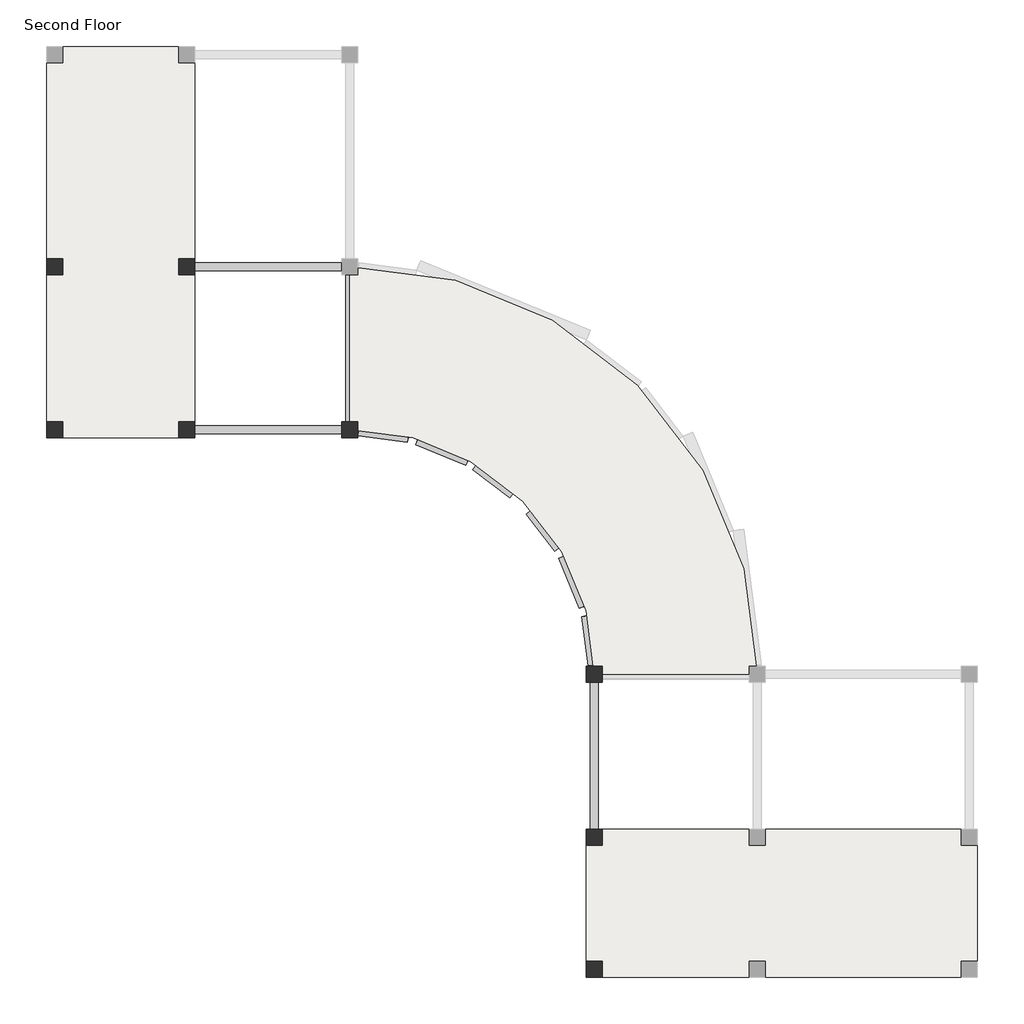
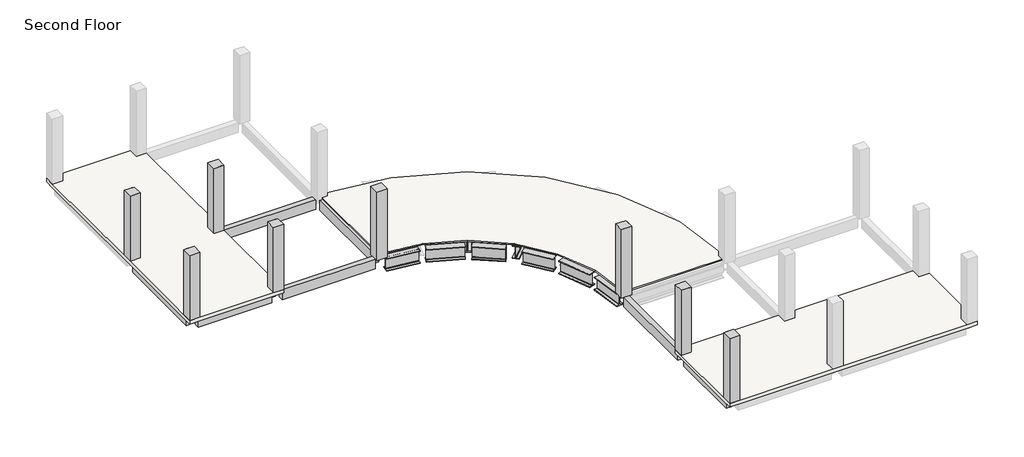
# One storey, part 1 of 2: 18 beams, 16 columns, 3 slabs.
"""IFC4 building model written with IfcOpenShell, lengths in millimetres."""

from ifc_helpers import new_model, si_unit, frame, origin, place, context, project, spatial, polyline, outline, extrude, faceted_brep, transform, mapped, element, save
from components import w760x350_12c19f72, w760x350_7ec89315, w760x350_d8cf7d22, w760x350_981adb13, w760x350_863436a1, w760x350_0a7047ff, w760x350_e8c7bbcb, w760x350_b2b244ea

model = new_model("IFC4")

# Units and contexts
model_context = context("Model", 3, world=origin())
ifc_project = project(units=[si_unit("LENGTHUNIT", "METRE", prefix="MILLI")], contexts=[model_context])

# Site, building, storey
site = spatial("IfcSite", under=ifc_project)
building = spatial("IfcBuilding", under=site)
storey = spatial("IfcBuildingStorey", under=building, Name="Second Floor", Elevation=3048.0)

# Beams
placement = place(None, origin())
element("IfcBeam", 1, ObjectType="M_Concrete-Rectangular Beam : 300 x 600mm", at=placement, inside=storey, context=model_context, shape_type="SweptSolid", body=[
    extrude(outline(polyline([(-16304.9035319, -3812.8363965), (-16304.9035319, -3512.8363965), (-10808.9035319, -3512.8363965), (-10808.9035319, -3812.8363965), (-16304.9035319, -3812.8363965)])), frame((0.0, 0.0, 2448.0), z_axis=(0.0, 0.0, 1.0), x_axis=(1.0, 0.0, 0.0)), (0.0, 0.0, 1.0), 600.0),
])
element("IfcBeam", 2, ObjectType="M_Concrete-Rectangular Beam : 300 x 600mm", at=placement, inside=storey, context=model_context, shape_type="SweptSolid", body=[
    extrude(outline(polyline([(-21244.300634, -3812.8363965), (-21244.300634, -3512.8363965), (-16904.9035319, -3512.8363965), (-16904.9035319, -3812.8363965), (-21244.300634, -3812.8363965)])), frame((0.0, 0.0, 2448.0), z_axis=(0.0, 0.0, 1.0), x_axis=(1.0, 0.0, 0.0)), (0.0, 0.0, 1.0), 510.0),
])
element("IfcBeam", 3, ObjectType="M_Concrete-Rectangular Beam : 300 x 600mm", at=placement, inside=storey, context=model_context, shape_type="SweptSolid", body=[
    extrude(outline(polyline([(-16304.9035319, -9908.8363965), (-16304.9035319, -9608.8363965), (-10808.9035319, -9608.8363965), (-10808.9035319, -9908.8363965), (-16304.9035319, -9908.8363965)])), frame((0.0, 0.0, 2448.0), z_axis=(0.0, 0.0, 1.0), x_axis=(1.0, 0.0, 0.0)), (0.0, 0.0, 1.0), 600.0),
])
element("IfcBeam", 4, ObjectType="M_Concrete-Rectangular Beam : 300 x 600mm", at=placement, inside=storey, context=model_context, shape_type="SweptSolid", body=[
    extrude(outline(polyline([(-21244.300634, -9908.8363965), (-21244.300634, -9608.8363965), (-16904.9035319, -9608.8363965), (-16904.9035319, -9908.8363965), (-21244.300634, -9908.8363965)])), frame((0.0, 0.0, 2448.0), z_axis=(0.0, 0.0, 1.0), x_axis=(1.0, 0.0, 0.0)), (0.0, 0.0, 1.0), 510.0),
])
element("IfcBeam", 5, ObjectType="M_Concrete-Rectangular Beam : 300 x 600mm", at=placement, inside=storey, context=model_context, shape_type="SweptSolid", body=[
    extrude(outline(polyline([(-21394.300634, -9458.8363965), (-21694.300634, -9458.8363965), (-21694.300634, -3962.8363965), (-21394.300634, -3962.8363965), (-21394.300634, -9458.8363965)])), frame((0.0, 0.0, 2448.0), z_axis=(0.0, 0.0, 1.0), x_axis=(1.0, 0.0, 0.0)), (0.0, 0.0, 1.0), 510.0),
])
element("IfcBeam", 6, ObjectType="M_Concrete-Rectangular Beam : 300 x 600mm", at=placement, inside=storey, context=model_context, shape_type="SweptSolid", body=[
    extrude(outline(polyline([(-16454.9035319, -9458.8363965), (-16754.9035319, -9458.8363965), (-16754.9035319, -3962.8363965), (-16454.9035319, -3962.8363965), (-16454.9035319, -9458.8363965)])), frame((0.0, 0.0, 2448.0), z_axis=(0.0, 0.0, 1.0), x_axis=(1.0, 0.0, 0.0)), (0.0, 0.0, 1.0), 510.0),
])
element("IfcBeam", 7, ObjectType="M_Concrete-Rectangular Beam : 300 x 600mm", at=placement, inside=storey, context=model_context, shape_type="SweptSolid", body=[
    extrude(outline(polyline([(-10358.9035319, -9458.8363965), (-10658.9035319, -9458.8363965), (-10658.9035319, -3962.8363965), (-10358.9035319, -3962.8363965), (-10358.9035319, -9458.8363965)])), frame((0.0, 0.0, 2448.0), z_axis=(0.0, 0.0, 1.0), x_axis=(1.0, 0.0, 0.0)), (0.0, 0.0, 1.0), 600.0),
])
element("IfcBeam", 8, ObjectType="M_Concrete-Rectangular Beam : 300 x 600mm", at=placement, inside=storey, context=model_context, shape_type="SweptSolid", body=[
    extrude(outline(polyline([(-1214.9035319, -24698.8363965), (-1514.9035319, -24698.8363965), (-1514.9035319, -19202.8363965), (-1214.9035319, -19202.8363965), (-1214.9035319, -24698.8363965)])), frame((0.0, 0.0, 2448.0), z_axis=(0.0, 0.0, 1.0), x_axis=(1.0, 0.0, 0.0)), (0.0, 0.0, 1.0), 600.0),
])
element("IfcBeam", 9, ObjectType="M_Concrete-Rectangular Beam : 300 x 600mm", at=placement, inside=storey, context=model_context, shape_type="SweptSolid", body=[
    extrude(outline(polyline([(-1214.9035319, -29638.2334986), (-1514.9035319, -29638.2334986), (-1514.9035319, -25298.8363965), (-1214.9035319, -25298.8363965), (-1214.9035319, -29638.2334986)])), frame((0.0, 0.0, 2448.0), z_axis=(0.0, 0.0, 1.0), x_axis=(1.0, 0.0, 0.0)), (0.0, 0.0, 1.0), 510.0),
])
w760x350_shape = w760x350_12c19f72(model_context)
element("IfcBeam", 10, ObjectType="M_W-Wide Flange : W760X350", at=placement, inside=storey, context=model_context, shape_type="MappedRepresentation", body=[
    mapped(w760x350_shape, transform((-5016.7075479, -11695.182511, 2523.5), x_axis=(-0.7953971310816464, 0.6060886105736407, 0.0), y_axis=(-0.6060886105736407, -0.7953971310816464, 0.0), z_axis=(0.0, 0.0, 1.0))),
])
w760x350_2_shape = w760x350_7ec89315(model_context)
element("IfcBeam", 11, ObjectType="M_W-Wide Flange : W760X350", at=placement, inside=storey, context=model_context, shape_type="MappedRepresentation", body=[
    mapped(w760x350_2_shape, transform((-7066.2790773, -10511.8618368, 2523.5), x_axis=(-0.9251619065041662, 0.37957271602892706, 0.0), y_axis=(-0.37957271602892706, -0.9251619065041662, 0.0), z_axis=(0.0, 0.0, 1.0))),
])
w760x350_3_shape = w760x350_d8cf7d22(model_context)
element("IfcBeam", 12, ObjectType="M_W-Wide Flange : W760X350", at=placement, inside=storey, context=model_context, shape_type="MappedRepresentation", body=[
    mapped(w760x350_3_shape, transform((-9325.5828576, -9914.6235187, 2523.5), x_axis=(-0.99144486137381, 0.13052619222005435, 0.0), y_axis=(-0.13052619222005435, -0.99144486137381, 0.0), z_axis=(0.0, 0.0, 1.0))),
])
w760x350_4_shape = w760x350_981adb13(model_context)
element("IfcBeam", 13, ObjectType="M_W-Wide Flange : W760X350", at=placement, inside=storey, context=model_context, shape_type="MappedRepresentation", body=[
    mapped(w760x350_4_shape, transform((-1520.6906541, -17719.5157223, 2523.5), x_axis=(-0.1305261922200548, 0.99144486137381, 0.0), y_axis=(-0.99144486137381, -0.1305261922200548, 0.0), z_axis=(0.0, 0.0, 1.0))),
])
element("IfcBeam", 14, ObjectType="M_W-Wide Flange : W760X350", at=placement, inside=storey, context=model_context, shape_type="MappedRepresentation", body=[
    mapped(w760x350_4_shape, transform((-9325.5828576, -9914.6235187, 2523.5), x_axis=(0.9914448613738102, -0.1305261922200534, 0.0), y_axis=(0.1305261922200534, 0.9914448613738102, 0.0), z_axis=(0.0, 0.0, 1.0))),
])
w760x350_5_shape = w760x350_863436a1(model_context)
element("IfcBeam", 15, ObjectType="M_W-Wide Flange : W760X350", at=placement, inside=storey, context=model_context, shape_type="MappedRepresentation", body=[
    mapped(w760x350_5_shape, transform((-4464.9452009, -8311.3279993, 2523.5), x_axis=(0.5000000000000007, 0.8660254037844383, 0.0), y_axis=(-0.8660254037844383, 0.5000000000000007, 0.0), z_axis=(0.0, 0.0, 1.0))),
])
w760x350_6_shape = w760x350_0a7047ff(model_context)
element("IfcBeam", 16, ObjectType="M_W-Wide Flange : W760X350", at=placement, inside=storey, context=model_context, shape_type="MappedRepresentation", body=[
    mapped(w760x350_6_shape, transform((-1887.8576556, -10281.7905203, 2523.5), x_axis=(0.7071067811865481, 0.7071067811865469, 0.0), y_axis=(-0.7071067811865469, 0.7071067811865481, 0.0), z_axis=(0.0, 0.0, 1.0))),
])
w760x350_7_shape = w760x350_e8c7bbcb(model_context)
element("IfcBeam", 17, ObjectType="M_W-Wide Flange : W760X350", at=placement, inside=storey, context=model_context, shape_type="MappedRepresentation", body=[
    mapped(w760x350_7_shape, transform((-3316.5431822, -13383.9441929, 2523.5), x_axis=(-0.6087614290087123, 0.7933533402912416, 0.0), y_axis=(-0.7933533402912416, -0.6087614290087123, 0.0), z_axis=(0.0, 0.0, 1.0))),
])
w760x350_8_shape = w760x350_b2b244ea(model_context)
element("IfcBeam", 18, ObjectType="M_W-Wide Flange : W760X350", at=placement, inside=storey, context=model_context, shape_type="MappedRepresentation", body=[
    mapped(w760x350_8_shape, transform((-2133.222508, -15433.5157223, 2523.5), x_axis=(-0.38268343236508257, 0.9238795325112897, 0.0), y_axis=(-0.9238795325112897, -0.38268343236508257, 0.0), z_axis=(0.0, 0.0, 1.0))),
])

# Columns
element("IfcColumn", 19, ObjectType="M_Concrete-Rectangular-Column : 600 x 600mm", at=placement, inside=storey, context=model_context, shape_type="SweptSolid", body=[
    extrude(outline(polyline([(-21844.300634, -10058.8363965), (-21844.300634, -9458.8363965), (-21244.300634, -9458.8363965), (-21244.300634, -10058.8363965), (-21844.300634, -10058.8363965)])), frame((0.0, 0.0, 3168.0), z_axis=(0.0, 0.0, 1.0), x_axis=(1.0, 0.0, 0.0)), (0.0, 0.0, 1.0), 4057.0),
])
element("IfcColumn", 20, ObjectType="M_Concrete-Rectangular-Column : 600 x 600mm", at=placement, inside=storey, context=model_context, shape_type="SweptSolid", body=[
    extrude(outline(polyline([(-21844.300634, -3962.8363965), (-21844.300634, -3362.8363965), (-21244.300634, -3362.8363965), (-21244.300634, -3962.8363965), (-21844.300634, -3962.8363965)])), frame((0.0, 0.0, 3168.0), z_axis=(0.0, 0.0, 1.0), x_axis=(1.0, 0.0, 0.0)), (0.0, 0.0, 1.0), 4057.0),
])
element("IfcColumn", 21, ObjectType="M_Concrete-Rectangular-Column : 600 x 600mm", at=placement, inside=storey, context=model_context, shape_type="SweptSolid", body=[
    extrude(outline(polyline([(-16904.9035319, -10058.8363965), (-16904.9035319, -9458.8363965), (-16304.9035319, -9458.8363965), (-16304.9035319, -10058.8363965), (-16904.9035319, -10058.8363965)])), frame((0.0, 0.0, 3168.0), z_axis=(0.0, 0.0, 1.0), x_axis=(1.0, 0.0, 0.0)), (0.0, 0.0, 1.0), 4057.0),
])
element("IfcColumn", 22, ObjectType="M_Concrete-Rectangular-Column : 600 x 600mm", at=placement, inside=storey, context=model_context, shape_type="SweptSolid", body=[
    extrude(outline(polyline([(-16904.9035319, -3962.8363965), (-16904.9035319, -3362.8363965), (-16304.9035319, -3362.8363965), (-16304.9035319, -3962.8363965), (-16904.9035319, -3962.8363965)])), frame((0.0, 0.0, 3168.0), z_axis=(0.0, 0.0, 1.0), x_axis=(1.0, 0.0, 0.0)), (0.0, 0.0, 1.0), 4057.0),
])
element("IfcColumn", 23, ObjectType="M_Concrete-Rectangular-Column : 600 x 600mm", at=placement, inside=storey, context=model_context, shape_type="Brep", body=[
    faceted_brep([(-10808.9035319, -10058.8363965, 3048.0), (-10808.9035319, -9458.8363965, 3048.0), (-10208.9035319, -9458.8363965, 3048.0), (-10208.9035319, -10058.8363965, 3048.0), (-10808.9035319, -10058.8363965, 7315.0), (-10808.9035319, -9458.8363965, 7315.0), (-10208.9035319, -9458.8363965, 7315.0), (-10208.9035319, -9458.8363965, 3168.0), (-10508.9035319, -9458.8363965, 3168.0), (-10508.9035319, -9458.8363965, 3093.0), (-10208.9035319, -9458.8363965, 3093.0), (-10208.9035319, -9798.3321458, 3093.0), (-10208.9035319, -9798.3321458, 3168.0), (-10208.9035319, -10058.8363965, 7315.0), (-10508.9035319, -9758.8363965, 3093.0), (-10508.9035319, -9758.8363965, 3168.0)], [[[0, 1, 2, 3]], [[1, 0, 4, 5]], [[2, 1, 5, 6, 7, 8, 9, 10]], [[3, 2, 10, 11, 12, 7, 6, 13]], [[0, 3, 13, 4]], [[5, 4, 13, 6]], [[9, 14, 11, 10]], [[12, 15, 8, 7]], [[14, 15, 12, 11]], [[15, 14, 9, 8]]]),
])
element("IfcColumn", 24, ObjectType="M_Concrete-Rectangular-Column : 600 x 600mm", at=placement, inside=storey, context=model_context, shape_type="Brep", body=[
    faceted_brep([(-21844.300634, -10058.8363965, 7225.0), (-21844.300634, -9458.8363965, 7225.0), (-21844.300634, -9458.8363965, 3168.0), (-21844.300634, -10058.8363965, 3168.0), (-21694.300634, -9458.8363965, 7225.0), (-21394.300634, -9458.8363965, 7225.0), (-21244.300634, -9458.8363965, 7225.0), (-21244.300634, -9458.8363965, 3168.0), (-21244.300634, -9608.8363965, 7225.0), (-21244.300634, -9908.8363965, 7225.0), (-21244.300634, -10058.8363965, 7225.0), (-21244.300634, -10058.8363965, 3168.0)], [[[0, 1, 2, 3]], [[1, 4, 5, 6, 7, 2]], [[6, 8, 9, 10, 11, 7]], [[10, 0, 3, 11]], [[1, 0, 10, 9, 8, 6, 5, 4]], [[3, 2, 7, 11]]]),
])
element("IfcColumn", 25, ObjectType="M_Concrete-Rectangular-Column : 600 x 600mm", at=placement, inside=storey, context=model_context, shape_type="Brep", body=[
    faceted_brep([(-21844.300634, -3962.8363965, 7225.0), (-21844.300634, -3362.8363965, 7225.0), (-21844.300634, -3362.8363965, 3168.0), (-21844.300634, -3962.8363965, 3168.0), (-21694.300634, -3362.8363965, 7225.0), (-21394.300634, -3362.8363965, 7225.0), (-21244.300634, -3362.8363965, 7225.0), (-21244.300634, -3362.8363965, 3168.0), (-21244.300634, -3512.8363965, 7225.0), (-21244.300634, -3812.8363965, 7225.0), (-21244.300634, -3962.8363965, 7225.0), (-21244.300634, -3962.8363965, 3168.0), (-21394.300634, -3962.8363965, 7225.0), (-21694.300634, -3962.8363965, 7225.0)], [[[0, 1, 2, 3]], [[1, 4, 5, 6, 7, 2]], [[6, 8, 9, 10, 11, 7]], [[10, 12, 13, 0, 3, 11]], [[1, 0, 13, 12, 10, 9, 8, 6, 5, 4]], [[3, 2, 7, 11]]]),
])
element("IfcColumn", 26, ObjectType="M_Concrete-Rectangular-Column : 600 x 600mm", at=placement, inside=storey, context=model_context, shape_type="Brep", body=[
    faceted_brep([(-16904.9035319, -10058.8363965, 7225.0), (-16904.9035319, -9908.8363965, 7225.0), (-16904.9035319, -9608.8363965, 7225.0), (-16904.9035319, -9458.8363965, 7225.0), (-16904.9035319, -9458.8363965, 3168.0), (-16904.9035319, -10058.8363965, 3168.0), (-16754.9035319, -9458.8363965, 7225.0), (-16454.9035319, -9458.8363965, 7225.0), (-16304.9035319, -9458.8363965, 7225.0), (-16304.9035319, -9458.8363965, 3168.0), (-16304.9035319, -10058.8363965, 7225.0), (-16304.9035319, -10058.8363965, 3168.0)], [[[0, 1, 2, 3, 4, 5]], [[3, 6, 7, 8, 9, 4]], [[8, 10, 11, 9]], [[10, 0, 5, 11]], [[3, 2, 1, 0, 10, 8, 7, 6]], [[5, 4, 9, 11]]]),
])
element("IfcColumn", 27, ObjectType="M_Concrete-Rectangular-Column : 600 x 600mm", at=placement, inside=storey, context=model_context, shape_type="Brep", body=[
    faceted_brep([(-16904.9035319, -3962.8363965, 7225.0), (-16904.9035319, -3812.8363965, 7225.0), (-16904.9035319, -3512.8363965, 7225.0), (-16904.9035319, -3362.8363965, 7225.0), (-16904.9035319, -3362.8363965, 3168.0), (-16904.9035319, -3962.8363965, 3168.0), (-16754.9035319, -3362.8363965, 7225.0), (-16454.9035319, -3362.8363965, 7225.0), (-16304.9035319, -3362.8363965, 7225.0), (-16304.9035319, -3362.8363965, 3168.0), (-16304.9035319, -3962.8363965, 7225.0), (-16304.9035319, -3962.8363965, 3168.0), (-16454.9035319, -3962.8363965, 7225.0), (-16754.9035319, -3962.8363965, 7225.0)], [[[0, 1, 2, 3, 4, 5]], [[3, 6, 7, 8, 9, 4]], [[8, 10, 11, 9]], [[10, 12, 13, 0, 5, 11]], [[3, 2, 1, 0, 13, 12, 10, 8, 7, 6]], [[5, 4, 9, 11]]]),
])
element("IfcColumn", 28, ObjectType="M_Concrete-Rectangular-Column : 600 x 600mm", at=placement, inside=storey, context=model_context, shape_type="Brep", body=[
    faceted_brep([(-10808.9035319, -10058.8363965, 3048.0), (-10808.9035319, -9458.8363965, 3048.0), (-10208.9035319, -9458.8363965, 3048.0), (-10208.9035319, -10058.8363965, 3048.0), (-10808.9035319, -10058.8363965, 7315.0), (-10808.9035319, -9908.8363965, 7315.0), (-10808.9035319, -9608.8363965, 7315.0), (-10808.9035319, -9458.8363965, 7315.0), (-10658.9035319, -9458.8363965, 7315.0), (-10358.9035319, -9458.8363965, 7315.0), (-10208.9035319, -9458.8363965, 7315.0), (-10208.9035319, -9458.8363965, 3168.0), (-10508.9035319, -9458.8363965, 3168.0), (-10508.9035319, -9458.8363965, 3093.0), (-10208.9035319, -9458.8363965, 3093.0), (-10208.9035319, -9798.3321458, 3093.0), (-10208.9035319, -9798.3321458, 3168.0), (-10208.9035319, -10058.8363965, 7315.0), (-10508.9035319, -9758.8363965, 3093.0), (-10508.9035319, -9758.8363965, 3168.0)], [[[0, 1, 2, 3]], [[1, 0, 4, 5, 6, 7]], [[2, 1, 7, 8, 9, 10, 11, 12, 13, 14]], [[3, 2, 14, 15, 16, 11, 10, 17]], [[0, 3, 17, 4]], [[7, 6, 5, 4, 17, 10, 9, 8]], [[13, 18, 15, 14]], [[16, 19, 12, 11]], [[18, 19, 16, 15]], [[19, 18, 13, 12]]]),
])
element("IfcColumn", 29, ObjectType="M_Concrete-Rectangular-Column : 600 x 600mm", at=placement, inside=storey, context=model_context, shape_type="SweptSolid", body=[
    extrude(outline(polyline([(-1064.9035319, -30238.2334986), (-1664.9035319, -30238.2334986), (-1664.9035319, -29638.2334986), (-1064.9035319, -29638.2334986), (-1064.9035319, -30238.2334986)])), frame((0.0, 0.0, 3168.0), z_axis=(0.0, 0.0, 1.0), x_axis=(1.0, 0.0, 0.0)), (0.0, 0.0, 1.0), 4057.0),
])
element("IfcColumn", 30, ObjectType="M_Concrete-Rectangular-Column : 600 x 600mm", at=placement, inside=storey, context=model_context, shape_type="SweptSolid", body=[
    extrude(outline(polyline([(-1064.9035319, -25298.8363965), (-1664.9035319, -25298.8363965), (-1664.9035319, -24698.8363965), (-1064.9035319, -24698.8363965), (-1064.9035319, -25298.8363965)])), frame((0.0, 0.0, 3168.0), z_axis=(0.0, 0.0, 1.0), x_axis=(1.0, 0.0, 0.0)), (0.0, 0.0, 1.0), 4057.0),
])
element("IfcColumn", 31, ObjectType="M_Concrete-Rectangular-Column : 600 x 600mm", at=placement, inside=storey, context=model_context, shape_type="Brep", body=[
    faceted_brep([(-1064.9035319, -19202.8363965, 3048.0), (-1664.9035319, -19202.8363965, 3048.0), (-1664.9035319, -18602.8363965, 3048.0), (-1064.9035319, -18602.8363965, 3048.0), (-1064.9035319, -19202.8363965, 7315.0), (-1664.9035319, -19202.8363965, 7315.0), (-1064.9035319, -18602.8363965, 3093.0), (-1064.9035319, -18902.8363965, 3093.0), (-1064.9035319, -18902.8363965, 3168.0), (-1064.9035319, -18602.8363965, 3168.0), (-1064.9035319, -18602.8363965, 7315.0), (-1664.9035319, -18602.8363965, 7315.0), (-1404.3992811, -18602.8363965, 3168.0), (-1404.3992811, -18602.8363965, 3093.0), (-1364.9035319, -18902.8363965, 3093.0), (-1364.9035319, -18902.8363965, 3168.0)], [[[0, 1, 2, 3]], [[1, 0, 4, 5]], [[0, 3, 6, 7, 8, 9, 10, 4]], [[3, 2, 11, 10, 9, 12, 13, 6]], [[2, 1, 5, 11]], [[5, 4, 10, 11]], [[13, 14, 7, 6]], [[8, 15, 12, 9]], [[14, 15, 8, 7]], [[15, 14, 13, 12]]]),
])
element("IfcColumn", 32, ObjectType="M_Concrete-Rectangular-Column : 600 x 600mm", at=placement, inside=storey, context=model_context, shape_type="Brep", body=[
    faceted_brep([(-1064.9035319, -30238.2334986, 7225.0), (-1664.9035319, -30238.2334986, 7225.0), (-1664.9035319, -30238.2334986, 3168.0), (-1064.9035319, -30238.2334986, 3168.0), (-1064.9035319, -29638.2334986, 7225.0), (-1064.9035319, -29788.2334986, 7225.0), (-1064.9035319, -30088.2334986, 7225.0), (-1064.9035319, -29638.2334986, 3168.0), (-1664.9035319, -29638.2334986, 7225.0), (-1514.9035319, -29638.2334986, 7225.0), (-1214.9035319, -29638.2334986, 7225.0), (-1664.9035319, -29638.2334986, 3168.0)], [[[0, 1, 2, 3]], [[4, 5, 6, 0, 3, 7]], [[8, 9, 10, 4, 7, 11]], [[1, 8, 11, 2]], [[1, 0, 6, 5, 4, 10, 9, 8]], [[3, 2, 11, 7]]]),
])
element("IfcColumn", 33, ObjectType="M_Concrete-Rectangular-Column : 600 x 600mm", at=placement, inside=storey, context=model_context, shape_type="Brep", body=[
    faceted_brep([(-1064.9035319, -25298.8363965, 7225.0), (-1214.9035319, -25298.8363965, 7225.0), (-1514.9035319, -25298.8363965, 7225.0), (-1664.9035319, -25298.8363965, 7225.0), (-1664.9035319, -25298.8363965, 3168.0), (-1064.9035319, -25298.8363965, 3168.0), (-1064.9035319, -24698.8363965, 7225.0), (-1064.9035319, -24848.8363965, 7225.0), (-1064.9035319, -25148.8363965, 7225.0), (-1064.9035319, -24698.8363965, 3168.0), (-1664.9035319, -24698.8363965, 7225.0), (-1664.9035319, -24698.8363965, 3168.0)], [[[0, 1, 2, 3, 4, 5]], [[6, 7, 8, 0, 5, 9]], [[10, 6, 9, 11]], [[3, 10, 11, 4]], [[3, 2, 1, 0, 8, 7, 6, 10]], [[5, 4, 11, 9]]]),
])
element("IfcColumn", 34, ObjectType="M_Concrete-Rectangular-Column : 600 x 600mm", at=placement, inside=storey, context=model_context, shape_type="Brep", body=[
    faceted_brep([(-1064.9035319, -19202.8363965, 3048.0), (-1664.9035319, -19202.8363965, 3048.0), (-1664.9035319, -18602.8363965, 3048.0), (-1064.9035319, -18602.8363965, 3048.0), (-1064.9035319, -19202.8363965, 7315.0), (-1214.9035319, -19202.8363965, 7315.0), (-1514.9035319, -19202.8363965, 7315.0), (-1664.9035319, -19202.8363965, 7315.0), (-1064.9035319, -18602.8363965, 3093.0), (-1064.9035319, -18902.8363965, 3093.0), (-1064.9035319, -18902.8363965, 3168.0), (-1064.9035319, -18602.8363965, 3168.0), (-1064.9035319, -18602.8363965, 7315.0), (-1064.9035319, -18752.8363965, 7315.0), (-1064.9035319, -19052.8363965, 7315.0), (-1664.9035319, -18602.8363965, 7315.0), (-1404.3992811, -18602.8363965, 3168.0), (-1404.3992811, -18602.8363965, 3093.0), (-1364.9035319, -18902.8363965, 3093.0), (-1364.9035319, -18902.8363965, 3168.0)], [[[0, 1, 2, 3]], [[1, 0, 4, 5, 6, 7]], [[0, 3, 8, 9, 10, 11, 12, 13, 14, 4]], [[3, 2, 15, 12, 11, 16, 17, 8]], [[2, 1, 7, 15]], [[7, 6, 5, 4, 14, 13, 12, 15]], [[17, 18, 9, 8]], [[10, 19, 16, 11]], [[18, 19, 10, 9]], [[19, 18, 17, 16]]]),
])

# Slabs
element("IfcSlab", 35, ObjectType="160mm Concrete With 50mm Metal Deck", at=placement, inside=storey, context=model_context, shape_type="Brep", body=[
    faceted_brep([(-16304.9035319, 4562.1636035, 2958.0), (-16304.9035319, 3962.1636035, 2958.0), (-16304.9035319, -3362.8363965, 2958.0), (-16304.9035319, -3962.8363965, 2958.0), (-16304.9035319, -9458.8363965, 2958.0), (-16304.9035319, -10058.8363965, 2958.0), (-16904.9035319, -10058.8363965, 2958.0), (-21244.300634, -10058.8363965, 2958.0), (-21844.300634, -10058.8363965, 2958.0), (-21844.300634, -9458.8363965, 2958.0), (-21844.300634, -3962.8363965, 2958.0), (-21844.300634, -3362.8363965, 2958.0), (-21844.300634, 3962.1636035, 2958.0), (-21844.300634, 4562.1636035, 2958.0), (-21244.300634, 4562.1636035, 2958.0), (-16904.9035319, 4562.1636035, 2958.0), (-16304.9035319, 4562.1636035, 3168.0), (-16904.9035319, 4562.1636035, 3168.0), (-21244.300634, 4562.1636035, 3168.0), (-21844.300634, 4562.1636035, 3168.0), (-21844.300634, 3962.1636035, 3168.0), (-21844.300634, -3362.8363965, 3168.0), (-21844.300634, -3962.8363965, 3168.0), (-21844.300634, -9458.8363965, 3168.0), (-21844.300634, -10058.8363965, 3168.0), (-21244.300634, -10058.8363965, 3168.0), (-16904.9035319, -10058.8363965, 3168.0), (-16304.9035319, -10058.8363965, 3168.0), (-16304.9035319, -9458.8363965, 3168.0), (-16304.9035319, -3962.8363965, 3168.0), (-16304.9035319, -3362.8363965, 3168.0), (-16304.9035319, 3962.1636035, 3168.0)], [[[0, 1, 2, 3, 4, 5, 6, 7, 8, 9, 10, 11, 12, 13, 14, 15]], [[16, 17, 18, 19, 20, 21, 22, 23, 24, 25, 26, 27, 28, 29, 30, 31]], [[5, 4, 3, 2, 1, 0, 16, 31, 30, 29, 28, 27]], [[8, 7, 6, 5, 27, 26, 25, 24]], [[13, 12, 11, 10, 9, 8, 24, 23, 22, 21, 20, 19]], [[0, 15, 14, 13, 19, 18, 17, 16]]]),
])
element("IfcSlab", 36, ObjectType="160mm Concrete With 50mm Metal Deck", at=placement, inside=storey, context=model_context, shape_type="Brep", body=[
    faceted_brep([(12956.0964681, -24698.8363965, 2958.0), (12956.0964681, -25298.8363965, 2958.0), (12956.0964681, -29638.2334986, 2958.0), (12956.0964681, -30238.2334986, 2958.0), (12356.0964681, -30238.2334986, 2958.0), (5031.0964681, -30238.2334986, 2958.0), (4431.0964681, -30238.2334986, 2958.0), (-1064.9035319, -30238.2334986, 2958.0), (-1664.9035319, -30238.2334986, 2958.0), (-1664.9035319, -29638.2334986, 2958.0), (-1664.9035319, -25298.8363965, 2958.0), (-1664.9035319, -24698.8363965, 2958.0), (-1064.9035319, -24698.8363965, 2958.0), (4431.0964681, -24698.8363965, 2958.0), (5031.0964681, -24698.8363965, 2958.0), (12356.0964681, -24698.8363965, 2958.0), (12956.0964681, -24698.8363965, 3168.0), (12356.0964681, -24698.8363965, 3168.0), (5031.0964681, -24698.8363965, 3168.0), (4431.0964681, -24698.8363965, 3168.0), (-1064.9035319, -24698.8363965, 3168.0), (-1664.9035319, -24698.8363965, 3168.0), (-1664.9035319, -25298.8363965, 3168.0), (-1664.9035319, -29638.2334986, 3168.0), (-1664.9035319, -30238.2334986, 3168.0), (-1064.9035319, -30238.2334986, 3168.0), (4431.0964681, -30238.2334986, 3168.0), (5031.0964681, -30238.2334986, 3168.0), (12356.0964681, -30238.2334986, 3168.0), (12956.0964681, -30238.2334986, 3168.0), (12956.0964681, -29638.2334986, 3168.0), (12956.0964681, -25298.8363965, 3168.0)], [[[0, 1, 2, 3, 4, 5, 6, 7, 8, 9, 10, 11, 12, 13, 14, 15]], [[16, 17, 18, 19, 20, 21, 22, 23, 24, 25, 26, 27, 28, 29, 30, 31]], [[0, 15, 14, 13, 12, 11, 21, 20, 19, 18, 17, 16]], [[11, 10, 9, 8, 24, 23, 22, 21]], [[8, 7, 6, 5, 4, 3, 29, 28, 27, 26, 25, 24]], [[3, 2, 1, 0, 16, 31, 30, 29]]]),
])
element("IfcSlab", 37, ObjectType="75mm Metal Roof Deck", at=placement, inside=storey, context=model_context, shape_type="Brep", body=[
    faceted_brep([(-10508.9035319, -3662.8363965, 3093.0), (-10208.9035319, -3702.3321458, 3093.0), (-6564.5012845, -4182.1268039, 3093.0), (-2939.5944307, -5669.3429659, 3093.0), (242.5168812, -8094.0957697, 3093.0), (2689.3236218, -11282.8363965, 3093.0), (4211.8060608, -14958.4341491, 3093.0), (4691.6007189, -18602.8363965, 3093.0), (4731.0964681, -18902.8363965, 3093.0), (4431.0964681, -18902.8363965, 3093.0), (-1064.9035319, -18902.8363965, 3093.0), (-1364.9035319, -18902.8363965, 3093.0), (-1404.3992811, -18602.8363965, 3093.0), (-1676.4777763, -16536.1950481, 3093.0), (-2589.9672396, -14330.8363965, 3093.0), (-4043.1191247, -12437.0519893, 3093.0), (-5990.2959711, -10953.3130327, 3093.0), (-8142.2621834, -10070.4106409, 3093.0), (-10208.9035319, -9798.3321458, 3093.0), (-10508.9035319, -9758.8363965, 3093.0), (-10508.9035319, -9458.8363965, 3093.0), (-10508.9035319, -3962.8363965, 3093.0), (-10508.9035319, -3662.8363965, 3168.0), (-10508.9035319, -3962.8363965, 3168.0), (-10508.9035319, -9458.8363965, 3168.0), (-10508.9035319, -9758.8363965, 3168.0), (-10208.9035319, -9798.3321458, 3168.0), (-8142.2621834, -10070.4106409, 3168.0), (-5990.2959711, -10953.3130327, 3168.0), (-4043.1191247, -12437.0519893, 3168.0), (-2589.9672396, -14330.8363965, 3168.0), (-1676.4777763, -16536.1950481, 3168.0), (-1404.3992811, -18602.8363965, 3168.0), (-1364.9035319, -18902.8363965, 3168.0), (-1064.9035319, -18902.8363965, 3168.0), (4431.0964681, -18902.8363965, 3168.0), (4731.0964681, -18902.8363965, 3168.0), (4691.6007189, -18602.8363965, 3168.0), (4211.8060608, -14958.4341491, 3168.0), (2689.3236218, -11282.8363965, 3168.0), (242.5168812, -8094.0957697, 3168.0), (-2939.5944307, -5669.3429659, 3168.0), (-6564.5012845, -4182.1268039, 3168.0), (-10208.9035319, -3702.3321458, 3168.0)], [[[0, 1, 2, 3, 4, 5, 6, 7, 8, 9, 10, 11, 12, 13, 14, 15, 16, 17, 18, 19, 20, 21]], [[22, 23, 24, 25, 26, 27, 28, 29, 30, 31, 32, 33, 34, 35, 36, 37, 38, 39, 40, 41, 42, 43]], [[2, 1, 0, 22, 43, 42]], [[3, 2, 42, 41]], [[4, 3, 41, 40]], [[5, 4, 40, 39]], [[6, 5, 39, 38]], [[8, 7, 6, 38, 37, 36]], [[11, 10, 9, 8, 36, 35, 34, 33]], [[13, 12, 11, 33, 32, 31]], [[14, 13, 31, 30]], [[15, 14, 30, 29]], [[16, 15, 29, 28]], [[17, 16, 28, 27]], [[19, 18, 17, 27, 26, 25]], [[0, 21, 20, 19, 25, 24, 23, 22]]]),
])

save(model, "model.ifc")
